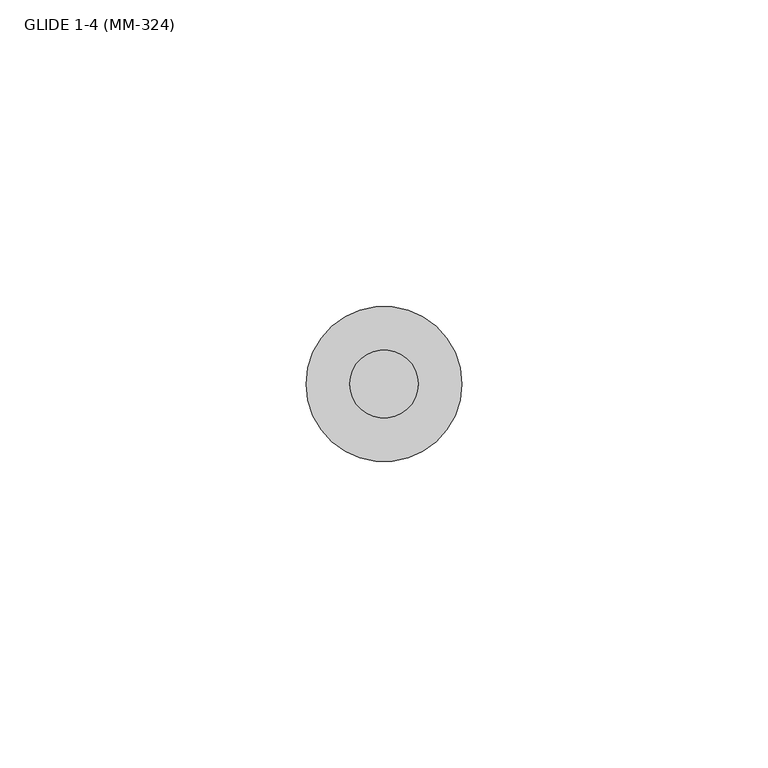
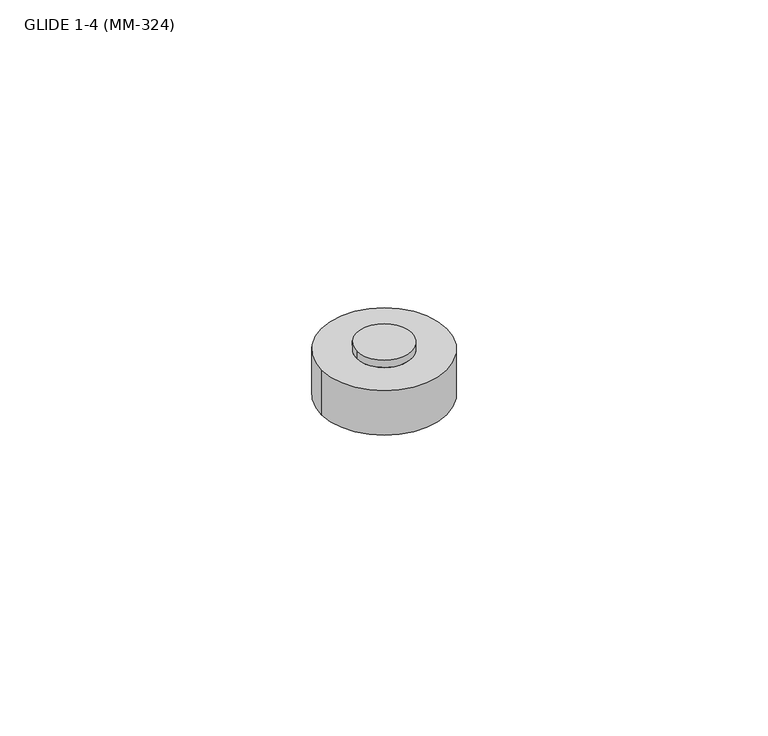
"""IFC4 building model written with IfcOpenShell, lengths in millimetres: proxy geometry, GLIDE 1-4 (MM-324)."""

import ifcopenshell
import ifcopenshell.guid

model = None  # the IFC model being written
_history = None  # IfcOwnerHistory: only IFC2X3 demands one
_inside = {}  # id of a spatial element -> (the spatial element, [elements in it])
_under = {}  # id of a project, library or spatial element -> (it, [spatial elements below it])
_declared = {}  # id of a project -> (the project, [libraries it declares])
_typed = {}  # id of a type object -> (the type object, [elements of that type])
_made_of = {}  # id of a material, layer set ... -> (it, [elements and type objects made of it])


def new_model(schema):
    """Start an empty IFC model of exactly this schema.

    Asked for "IFC4X3", IfcOpenShell would pick the latest addendum, in which some entities
    have other attributes; the version numbers below select the first issue.
    IFC2X3 requires an IfcOwnerHistory on every rooted entity: one is made here for all.
    """
    global model, _history
    if schema == "IFC4X3":
        model = ifcopenshell.file(schema_version=(4, 3, 0, 0))
    else:
        model = ifcopenshell.file(schema=schema)
    _inside.clear()
    _under.clear()
    _declared.clear()
    _typed.clear()
    _made_of.clear()
    _history = None
    if model.schema == "IFC2X3":
        org = make("IfcOrganization", Name="unknown")
        user = make(
            "IfcPersonAndOrganization",
            ThePerson=make("IfcPerson", FamilyName="unknown"),
            TheOrganization=org,
        )
        app = make(
            "IfcApplication",
            ApplicationDeveloper=org,
            Version="unknown",
            ApplicationFullName="unknown",
            ApplicationIdentifier="unknown",
        )
        _history = make(
            "IfcOwnerHistory",
            OwningUser=user,
            OwningApplication=app,
            ChangeAction="ADDED",
            CreationDate=0,
        )
    return model


def make(cls, **values):
    """One entity of the class cls with the attributes given. An attribute that is None is left unset."""
    return model.create_entity(
        cls, **{name: value for name, value in values.items() if value is not None}
    )


def rooted(cls, **values):
    """An entity with a GlobalId (a new one), such as an element, a storey or a relation."""
    return make(cls, GlobalId=ifcopenshell.guid.new(), OwnerHistory=_history, **values)


def si_unit(unit_type, name, prefix=None):
    """IfcSIUnit, for example si_unit("LENGTHUNIT", "METRE", prefix="MILLI")."""
    return make("IfcSIUnit", UnitType=unit_type, Prefix=prefix, Name=name)


def assignment(units):
    """IfcUnitAssignment: the units of a project."""
    return None if units is None else make("IfcUnitAssignment", Units=units)


def point(xyz):
    """IfcCartesianPoint."""
    return None if xyz is None else make("IfcCartesianPoint", Coordinates=xyz)


def direction(xyz):
    """IfcDirection."""
    return None if xyz is None else make("IfcDirection", DirectionRatios=xyz)


def frame(location, z_axis=None, x_axis=None):
    """IfcAxis2Placement3D, a coordinate frame: its origin and axes. An axis left out is left unset."""
    return make(
        "IfcAxis2Placement3D",
        Location=point(location),
        Axis=direction(z_axis),
        RefDirection=direction(x_axis),
    )


def origin():
    """The frame at (0, 0, 0) with its axes left unset."""
    return frame((0.0, 0.0, 0.0))


def place(relative_to, where):
    """IfcLocalPlacement: puts the frame where relative to a parent placement (None: the world)."""
    return make(
        "IfcLocalPlacement", PlacementRelTo=relative_to, RelativePlacement=where
    )


def context(
    kind, dimensions, precision=None, world=None, true_north=None, identifier=None
):
    """IfcGeometricRepresentationContext, for example the 3D "Model" context."""
    return make(
        "IfcGeometricRepresentationContext",
        ContextIdentifier=identifier,
        ContextType=kind,
        CoordinateSpaceDimension=dimensions,
        Precision=precision,
        WorldCoordinateSystem=world,
        TrueNorth=true_north,
    )


def project(units=None, contexts=None):
    """IfcProject with its units and contexts."""
    return rooted(
        "IfcProject",
        Name="project",
        RepresentationContexts=contexts,
        UnitsInContext=assignment(units),
    )


def spatial(cls, under=None, at=None, **own):
    """A site, building, storey or space (cls), placed at a placement, below another one or the project."""
    s = rooted(cls, ObjectPlacement=at, **own)
    if under is not None:
        _under.setdefault(under.id(), (under, []))[1].append(s)
    return s


def circle_curve(where, radius):
    """IfcCircle in the frame where."""
    return make("IfcCircle", Position=where, Radius=radius)


def shape(context_of_items, identifier, shape_type, items):
    """IfcShapeRepresentation: the items that make up one representation, for example the "Body"."""
    return make(
        "IfcShapeRepresentation",
        ContextOfItems=context_of_items,
        RepresentationIdentifier=identifier,
        RepresentationType=shape_type,
        Items=items,
    )


def source(mapping_origin, context_of_items, identifier, shape_type, items):
    """IfcRepresentationMap: a shape defined once, which mapped items show again and again."""
    return make(
        "IfcRepresentationMap",
        MappingOrigin=mapping_origin,
        MappedRepresentation=shape(context_of_items, identifier, shape_type, items),
    )


def transform(
    local_origin,
    x_axis=None,
    y_axis=None,
    z_axis=None,
    scale=None,
    scale2=None,
    scale3=None,
    uniform=True,
):
    """IfcCartesianTransformationOperator3D, or its non-uniform kind. x_axis, y_axis, z_axis: its Axis1, 2, 3."""
    if uniform:
        return make(
            "IfcCartesianTransformationOperator3D",
            Axis1=direction(x_axis),
            Axis2=direction(y_axis),
            LocalOrigin=point(local_origin),
            Scale=scale,
            Axis3=direction(z_axis),
        )
    return make(
        "IfcCartesianTransformationOperator3DnonUniform",
        Axis1=direction(x_axis),
        Axis2=direction(y_axis),
        LocalOrigin=point(local_origin),
        Scale=scale,
        Axis3=direction(z_axis),
        Scale2=scale2,
        Scale3=scale3,
    )


def mapped(mapping_source, mapping_target):
    """IfcMappedItem: shows the shape of a source again, moved by a transform."""
    return make(
        "IfcMappedItem", MappingSource=mapping_source, MappingTarget=mapping_target
    )


def made_of(thing, what):
    """Note that an element or type object is made of a material, layer set ...; save() writes the relation."""
    if what is not None:
        _made_of.setdefault(what.id(), (what, []))[1].append(thing)
    return thing


def element(
    cls,
    number,
    at=None,
    inside=None,
    cuts=None,
    type_object=None,
    material=None,
    context=None,
    identifier="Body",
    shape_type=None,
    held_by="IfcProductDefinitionShape",
    body=None,
    shapes=None,
    **own,
):
    """One element of the class cls, such as IfcWall. Its Tag is "e" and its number.

    at: its placement. inside: the storey or other place that contains it. cuts: it is an
    opening in that element (IfcRelVoidsElement). A single representation is given by context,
    identifier, shape_type and body (its items); several are given by shapes. held_by: the class
    of the entity that holds the representations. save() writes the other relations.
    """
    e = rooted(cls, Tag="e%d" % number, ObjectPlacement=at, **own)
    if body is not None:
        shapes = [shape(context, identifier, shape_type, body)]
    if shapes is not None:
        e.Representation = make(held_by, Representations=shapes)
    if inside is not None:
        _inside.setdefault(inside.id(), (inside, []))[1].append(e)
    if cuts is not None:
        rooted(
            "IfcRelVoidsElement", RelatingBuildingElement=cuts, RelatedOpeningElement=e
        )
    if type_object is not None:
        _typed.setdefault(type_object.id(), (type_object, []))[1].append(e)
    return made_of(e, material)


def aggregate(whole, parts):
    """IfcRelAggregates: a whole, such as a stair, and the parts it consists of."""
    return rooted("IfcRelAggregates", RelatingObject=whole, RelatedObjects=parts)


def save(model, path):
    """Write the relations noted so far, then the file.

    IfcRelAggregates (storeys below a building ...), IfcRelContainedInSpatialStructure (elements
    in a storey), IfcRelDefinesByType, IfcRelAssociatesMaterial and IfcRelDeclares: one each for
    every whole, place, type object, material and project.
    """
    for whole, parts in _under.values():
        aggregate(whole, parts)
    for where, things in _inside.values():
        rooted(
            "IfcRelContainedInSpatialStructure",
            RelatedElements=things,
            RelatingStructure=where,
        )
    for kind, things in _typed.values():
        rooted("IfcRelDefinesByType", RelatedObjects=things, RelatingType=kind)
    for what, things in _made_of.values():
        rooted("IfcRelAssociatesMaterial", RelatedObjects=things, RelatingMaterial=what)
    for by, libraries in _declared.values():
        rooted("IfcRelDeclares", RelatingContext=by, RelatedDefinitions=libraries)
    model.write(path)


def plane_surface(at):
    """IfcPlane: the flat surface through the origin of the frame at, square to its z axis."""
    return make("IfcPlane", Position=at)


def cylinder_surface(at, radius):
    """IfcCylindricalSurface: all points at the distance radius from the z axis of the frame at."""
    return make("IfcCylindricalSurface", Position=at, Radius=radius)


def advanced_brep(points, edges, surfaces, faces):
    """IfcAdvancedBrep: a solid bounded by faces that lie on surfaces and meet in shared edges.

    An edge is (start, end): straight between two places in points (the first is 0);
    or (start, end, curve); or (start, end, curve, False) where it runs against its curve.
    A face is (place in surfaces, loops), or (place, loops, False) where it looks against
    its surface's normal. A loop lists edges by number (the first is 1), with a minus sign
    where the edge is run from its end to its start. The first loop is the outer one.
    """
    corners = [point(p) for p in points]
    vertices = [make("IfcVertexPoint", VertexGeometry=c) for c in corners]
    made = []
    for start, end, *more in edges:
        made.append(
            make(
                "IfcEdgeCurve",
                EdgeStart=vertices[start],
                EdgeEnd=vertices[end],
                EdgeGeometry=more[0] if more else make("IfcPolyline", Points=[corners[start], corners[end]]),
                SameSense=more[1] if len(more) > 1 else True,
            )
        )
    hull = []
    for where, loops, *sense in faces:
        bounds = []
        for j, loop in enumerate(loops):
            ring = [make("IfcOrientedEdge", EdgeElement=made[abs(k) - 1], Orientation=k > 0) for k in loop]
            bounds.append(
                make(
                    "IfcFaceOuterBound" if j == 0 else "IfcFaceBound",
                    Bound=make("IfcEdgeLoop", EdgeList=ring),
                    Orientation=True,
                )
            )
        hull.append(make("IfcAdvancedFace", Bounds=bounds, FaceSurface=surfaces[where], SameSense=sense[0] if sense else True))
    return make("IfcAdvancedBrep", Outer=make("IfcClosedShell", CfsFaces=hull))


def glide_1_4_mm_324_80842d46(model_context):
    return source(origin(), model_context, "Body", "AdvancedBrep", [
        advanced_brep(
        [(-12.7, 0.0, 0.0), (-12.7, 0.0, 9.525), (12.7, 0.0, 9.525), (12.7, 0.0, 0.0), (-5.55625, 0.0, 9.525), (-5.55625, 0.0, 11.1125), (5.55625, 0.0, 11.1125), (5.55625, 0.0, 9.525)],
        [
            (0, 1),
            (1, 2, circle_curve(frame((0.0, 0.0, 9.525), z_axis=(0.0, 0.0, -1.0), x_axis=(-1.0, 0.0, 0.0)), 12.7)),
            (2, 3),
            (3, 0, circle_curve(frame((0.0, 0.0, 0.0), z_axis=(0.0, 0.0, 1.0), x_axis=(-1.0, 0.0, 0.0)), 12.7)),
            (4, 5),
            (5, 6, circle_curve(frame((0.0, 0.0, 11.1125), z_axis=(0.0, 0.0, -1.0), x_axis=(-1.0, 0.0, 0.0)), 5.55625)),
            (6, 7),
            (7, 4, circle_curve(frame((0.0, 0.0, 9.525), z_axis=(0.0, 0.0, 1.0), x_axis=(-1.0, 0.0, 0.0)), 5.55625)),
            (5, 6, circle_curve(frame((0.0, 0.0, 11.1125), z_axis=(0.0, 0.0, 1.0), x_axis=(-1.0, 0.0, 0.0)), 5.55625)),
            (4, 7, circle_curve(frame((0.0, 0.0, 9.525), z_axis=(0.0, 0.0, 1.0), x_axis=(-1.0, 0.0, 0.0)), 5.55625)),
            (0, 3, circle_curve(frame((0.0, 0.0, 0.0), z_axis=(0.0, 0.0, 1.0), x_axis=(-1.0, 0.0, 0.0)), 12.7)),
            (2, 1, circle_curve(frame((0.0, 0.0, 9.525), z_axis=(0.0, 0.0, -1.0), x_axis=(-1.0, 0.0, 0.0)), 12.7)),
        ],
        [
            cylinder_surface(frame((0.0, 0.0, 0.0), z_axis=(0.0, 0.0, 1.0), x_axis=(-1.0, 0.0, 0.0)), 12.7),
            cylinder_surface(frame((0.0, 0.0, 9.525), z_axis=(0.0, 0.0, 1.0), x_axis=(-1.0, 0.0, 0.0)), 5.55625),
            plane_surface(frame((0.0, 0.0, 11.1125), z_axis=(0.0, 0.0, 1.0), x_axis=(-1.0, 0.0, 0.0))),
            plane_surface(frame((0.0, 0.0, 9.525), z_axis=(0.0, 0.0, 1.0), x_axis=(-1.0, 0.0, 0.0))),
            plane_surface(frame((0.0, 0.0, 0.0), z_axis=(0.0, 0.0, -1.0), x_axis=(-1.0, 0.0, 0.0))),
        ],
        [
            (0, [[1, 2, 3, 4]]),
            (1, [[5, 6, 7, 8]]),
            (2, [[9, -6]]),
            (1, [[-5, 10, -7, -9]]),
            (0, [[-1, 11, -3, 12]]),
            (3, [[-12, -2], [-10, -8]]),
            (4, [[-11, -4]]),
        ],
    ),
    ])


if __name__ == "__main__":
    model = new_model("IFC4")
    model_context = context("Model", 3, world=origin())
    ifc_project = project(units=[si_unit("LENGTHUNIT", "METRE", prefix="MILLI")], contexts=[model_context])
    site = spatial("IfcSite", under=ifc_project)
    building = spatial("IfcBuilding", under=site)
    placement = place(None, origin())
    glide_1_4_mm_324_shape = glide_1_4_mm_324_80842d46(model_context)
    element("IfcBuildingElementProxy", 1, Name="GLIDE 1-4 (MM-324)", ObjectType="GLIDE 1-4 (MM-324)", at=placement, inside=building, context=model_context, shape_type="MappedRepresentation", body=[
        mapped(glide_1_4_mm_324_shape, transform((0.0, 0.0, 0.0), x_axis=(1.0, 0.0, 0.0), y_axis=(0.0, 1.0, 0.0), z_axis=(0.0, 0.0, 1.0))),
    ])
    save(model, "model.ifc")
